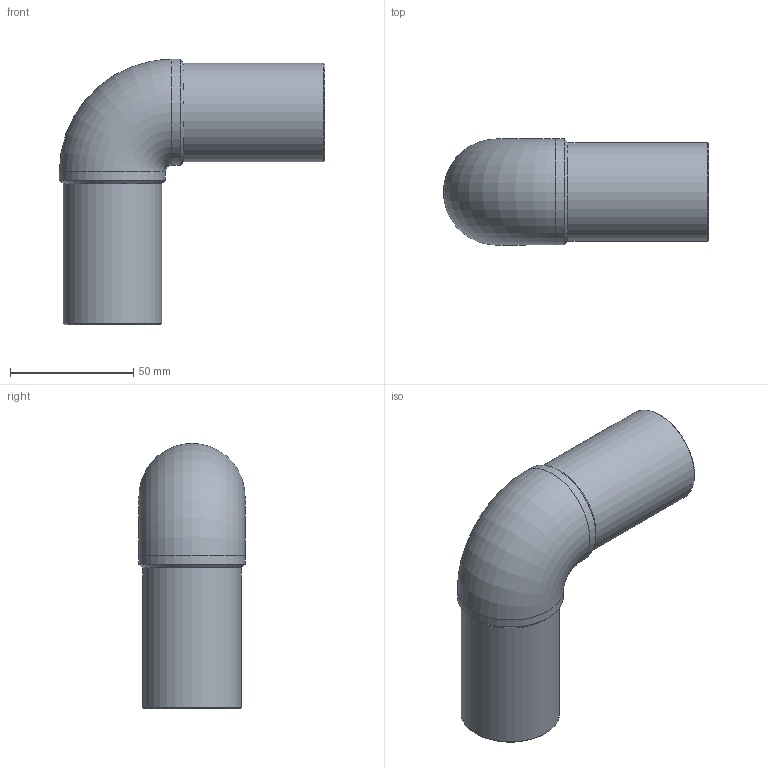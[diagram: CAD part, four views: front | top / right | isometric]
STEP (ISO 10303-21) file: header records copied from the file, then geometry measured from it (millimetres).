
FILE_DESCRIPTION(/* description */ ('Unknown'),/* implementation_level */ '2;1');
FILE_NAME(/* name */ 'G9P040C',/* time_stamp */ '2022-01-18T10:15:51+01:00',/* author */ ('Unknown'),/* organization */ ('Unknown'),/* preprocessor_version */ 'ST-DEVELOPER v18.1',/* originating_system */ 'Solid Edge',/* authorisation */ 'Unknown');
FILE_SCHEMA (('AUTOMOTIVE_DESIGN {1 0 10303 214 3 1 1}'));
Length unit declared in the file: millimetre
Products named in the file (1): G9P040C
Bounding box: 107.5 x 43 x 107.5 mm (x, y, z)
Volume: 78179.5 mm3; surface area: 38298.4 mm2
Topology: 1 solids, 1 shells, 14 faces, 34 edges, 22 vertices
Faces by surface type: cylinder 6, cone 4, plane 2, torus 2
Full cylindrical faces by diameter (mm): 32.6 x2, 40 x2, 43 x2
Entity records: 368 total; most frequent: CARTESIAN_POINT 68, DIRECTION 60, ORIENTED_EDGE 38, AXIS2_PLACEMENT_3D 30, EDGE_LOOP 27, FACE_BOUND 27, EDGE_CURVE 19, VERTEX_POINT 18
